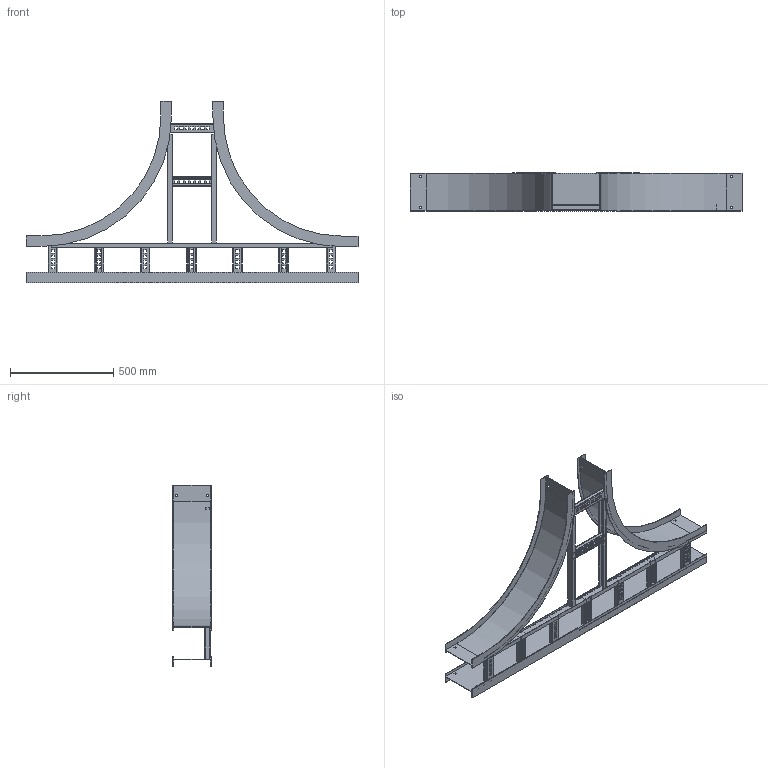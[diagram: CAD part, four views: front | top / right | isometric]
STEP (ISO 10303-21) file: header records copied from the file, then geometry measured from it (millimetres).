
FILE_DESCRIPTION((''),'2;1');
FILE_NAME('AHF70609LET24_ASM','2010-01-28T',('erouzier'),(''),'PRO/ENGINEER BY PARAMETRIC TECHNOLOGY CORPORATION, 2008510','PRO/ENGINEER BY PARAMETRIC TECHNOLOGY CORPORATION, 2008510','');
FILE_SCHEMA(('CONFIG_CONTROL_DESIGN'));
Length unit declared in the file: inch
Products named in the file (15): CDS001813-7-90-24-I; CDS013848-7-63; CDS000495_GEN_AF9; CDS002159L6-P_AF8; CDS002159L6-P_AF9; CDS002159L6-P_AF10; CDS002159L6-P_AF11; CDS002159L6-P_AF12; CDS002159L6-P_AF13; CDS002159L6-P_AF14; CDS000495_GEN_AF10; CDS000495_GEN_AF11; CDS002159L9-P_AF2; CDS002159L9-P_AF3; AHF70609LET24_ASM
Assembly tree (15 placements, depth 2):
  AHF70609LET24_ASM
    CDS001813-7-90-24-I  x2
    CDS013848-7-63
    CDS000495_GEN_AF9
    CDS002159L6-P_AF8
    CDS002159L6-P_AF9
    CDS002159L6-P_AF10
    CDS002159L6-P_AF11
    CDS002159L6-P_AF12
    CDS002159L6-P_AF13
    CDS002159L6-P_AF14
    CDS000495_GEN_AF10
    CDS000495_GEN_AF11
    CDS002159L9-P_AF2
    CDS002159L9-P_AF3
Bounding box: 1605.79 x 183.9 x 877.32 mm (x, y, z)
Volume: 3409150.4 mm3; surface area: 2839401.2 mm2
Topology: 15 solids, 15 shells, 750 faces, 2160 edges, 1440 vertices
Faces by surface type: plane 471, cylinder 279
Entity records: 23842 total; most frequent: CARTESIAN_POINT 4138, ORIENTED_EDGE 4080, DIRECTION 4062, EDGE_CURVE 2040, VECTOR 1494, LINE 1494, VERTEX_POINT 1360, AXIS2_PLACEMENT_3D 1284
